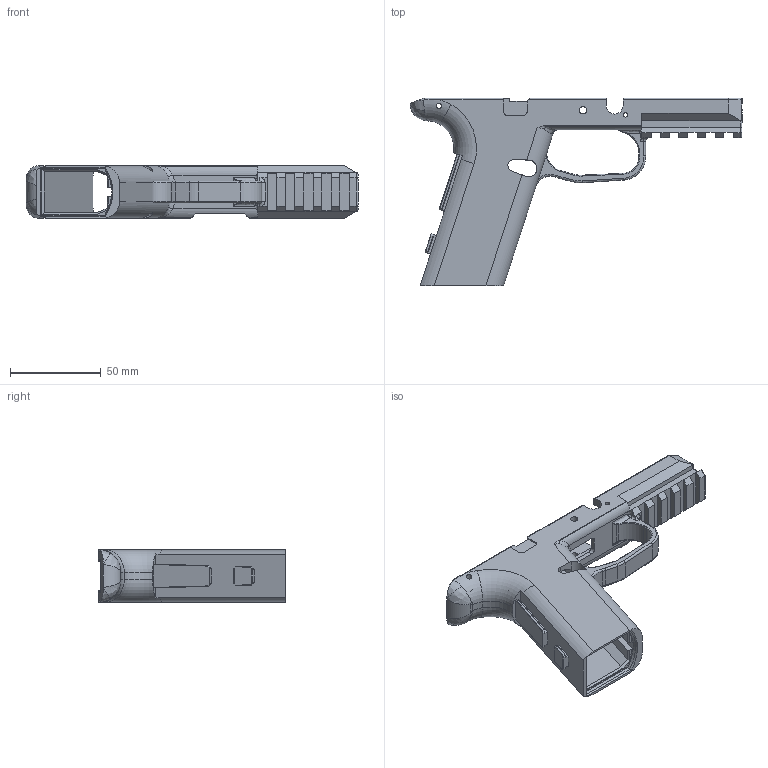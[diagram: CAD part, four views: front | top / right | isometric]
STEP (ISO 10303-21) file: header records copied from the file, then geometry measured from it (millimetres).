
FILE_DESCRIPTION(/* description */ (''),/* implementation_level */ '2;1');
FILE_NAME(/* name */ 'C:/Users/Bob/Desktop/FNS-940_1 v3.step',/* time_stamp */ '2021-06-04T19:09:45-07:00',/* author */ (''),/* organization */ (''),/* preprocessor_version */ 'ST-DEVELOPER v18.1',/* originating_system */ 'Autodesk Translation Framework v10.9.0.1377',/* authorisation */ '');
FILE_SCHEMA (('AUTOMOTIVE_DESIGN { 1 0 10303 214 3 1 1 }'));
Length unit declared in the file: millimetre
Products named in the file (5): FNS-940_1; Main Frame; Compact Size Grip; Standard Size Grip; Standard Size Grip (Stopgap)
Assembly tree (4 placements, depth 2):
  FNS-940_1
    Main Frame
    Compact Size Grip
    Standard Size Grip
    Standard Size Grip (Stopgap)
Bounding box: 183.1 x 103.6 x 29 mm (x, y, z)
Volume: 79959.3 mm3; surface area: 45917.8 mm2
Topology: 1 solids, 1 shells, 446 faces, 1248 edges, 792 vertices
Faces by surface type: plane 281, cylinder 108, torus 27, bspline 24, cone 6
Full cylindrical faces by diameter (mm): 2.5 x2, 3 x2, 4.1 x2
Entity records: 15873 total; most frequent: CARTESIAN_POINT 4297, ORIENTED_EDGE 2490, DIRECTION 2291, EDGE_CURVE 1245, LINE 877, VECTOR 877, VERTEX_POINT 792, AXIS2_PLACEMENT_3D 707
